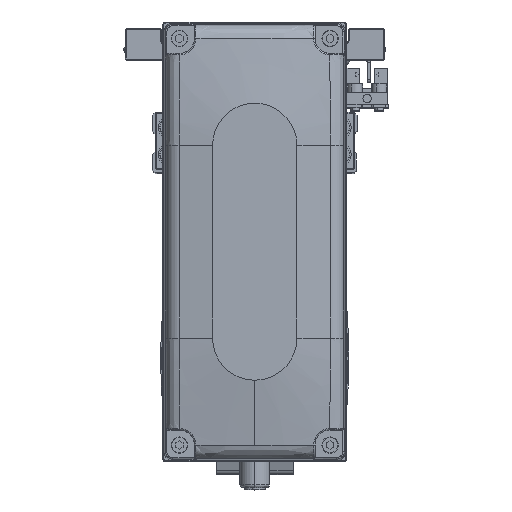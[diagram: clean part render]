
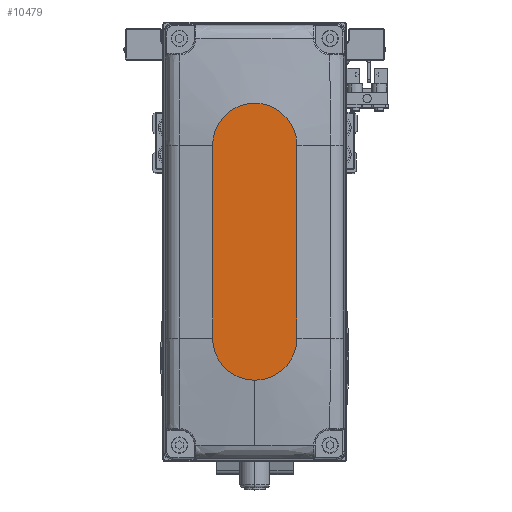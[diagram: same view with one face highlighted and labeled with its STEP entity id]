
A CAD part, top view. The second image highlights one B-rep face of the part: STEP entity #10479.
In plain terms, the highlighted planar face has unit normal (0, 0, 1).
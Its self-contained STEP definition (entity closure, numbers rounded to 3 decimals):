
#315 = VERTEX_POINT ( 'NONE', #2040 ) ;
#2040 = CARTESIAN_POINT ( 'NONE',  ( -32., 14., 35. ) ) ;
#2556 = DIRECTION ( 'NONE',  ( 1., 0., 0. ) ) ;
#5099 = EDGE_CURVE ( 'NONE', #41292, #30764, #15383, .T. ) ;
#6524 = VERTEX_POINT ( 'NONE', #28847 ) ;
#6723 = DIRECTION ( 'NONE',  ( 0., 0., 1. ) ) ;
#7108 = CARTESIAN_POINT ( 'NONE',  ( -32., 0., 35. ) ) ;
#7199 = VECTOR ( 'NONE', #42281, 1000. ) ;
#10479 = ADVANCED_FACE ( 'NONE', ( #28559 ), #41963, .T. ) ;
#11005 = CARTESIAN_POINT ( 'NONE',  ( 32., -14., 35. ) ) ;
#11747 = VERTEX_POINT ( 'NONE', #15981 ) ;
#11812 = CARTESIAN_POINT ( 'NONE',  ( 0., 0., 35. ) ) ;
#12090 = AXIS2_PLACEMENT_3D ( 'NONE', #11812, #25249, #38664 ) ;
#13374 = CARTESIAN_POINT ( 'NONE',  ( -32., -14., 35. ) ) ;
#14986 = EDGE_CURVE ( 'NONE', #11747, #315, #15436, .T. ) ;
#15383 = LINE ( 'NONE', #28811, #42774 ) ;
#15436 = LINE ( 'NONE', #28873, #7199 ) ;
#15981 = CARTESIAN_POINT ( 'NONE',  ( 32., 14., 35. ) ) ;
#17662 = CIRCLE ( 'NONE', #42266, 14. ) ;
#18216 = AXIS2_PLACEMENT_3D ( 'NONE', #7108, #20567, #34008 ) ;
#19313 = CARTESIAN_POINT ( 'NONE',  ( 32., 0., 35. ) ) ;
#20180 = DIRECTION ( 'NONE',  ( 1., 0., 0. ) ) ;
#20567 = DIRECTION ( 'NONE',  ( 0., 0., 1. ) ) ;
#20988 = ORIENTED_EDGE ( 'NONE', *, *, #14986, .T. ) ;
#21132 = ORIENTED_EDGE ( 'NONE', *, *, #36547, .T. ) ;
#22423 = CIRCLE ( 'NONE', #28040, 14. ) ;
#25249 = DIRECTION ( 'NONE',  ( 0., 0., 1. ) ) ;
#26803 = ORIENTED_EDGE ( 'NONE', *, *, #37101, .T. ) ;
#28040 = AXIS2_PLACEMENT_3D ( 'NONE', #36918, #6723, #20180 ) ;
#28559 = FACE_OUTER_BOUND ( 'NONE', #34821, .T. ) ;
#28811 = CARTESIAN_POINT ( 'NONE',  ( -32., -14., 35. ) ) ;
#28847 = CARTESIAN_POINT ( 'NONE',  ( 46., 0., 35. ) ) ;
#28873 = CARTESIAN_POINT ( 'NONE',  ( -32., 14., 35. ) ) ;
#30006 = ORIENTED_EDGE ( 'NONE', *, *, #5099, .T. ) ;
#30764 = VERTEX_POINT ( 'NONE', #11005 ) ;
#32757 = DIRECTION ( 'NONE',  ( 0., 0., 1. ) ) ;
#33829 = EDGE_CURVE ( 'NONE', #6524, #11747, #17662, .T. ) ;
#34008 = DIRECTION ( 'NONE',  ( 1., 0., 0. ) ) ;
#34821 = EDGE_LOOP ( 'NONE', ( #20988, #26803, #30006, #21132, #38076 ) ) ;
#36547 = EDGE_CURVE ( 'NONE', #30764, #6524, #22423, .T. ) ;
#36918 = CARTESIAN_POINT ( 'NONE',  ( 32., 0., 35. ) ) ;
#37101 = EDGE_CURVE ( 'NONE', #315, #41292, #37224, .T. ) ;
#37224 = CIRCLE ( 'NONE', #18216, 14. ) ;
#38076 = ORIENTED_EDGE ( 'NONE', *, *, #33829, .T. ) ;
#38664 = DIRECTION ( 'NONE',  ( 1., 0., 0. ) ) ;
#41292 = VERTEX_POINT ( 'NONE', #13374 ) ;
#41963 = PLANE ( 'NONE',  #12090 ) ;
#42228 = DIRECTION ( 'NONE',  ( 1., 0., 0. ) ) ;
#42266 = AXIS2_PLACEMENT_3D ( 'NONE', #19313, #32757, #2556 ) ;
#42281 = DIRECTION ( 'NONE',  ( -1., 0., 0. ) ) ;
#42774 = VECTOR ( 'NONE', #42228, 1000. ) ;
